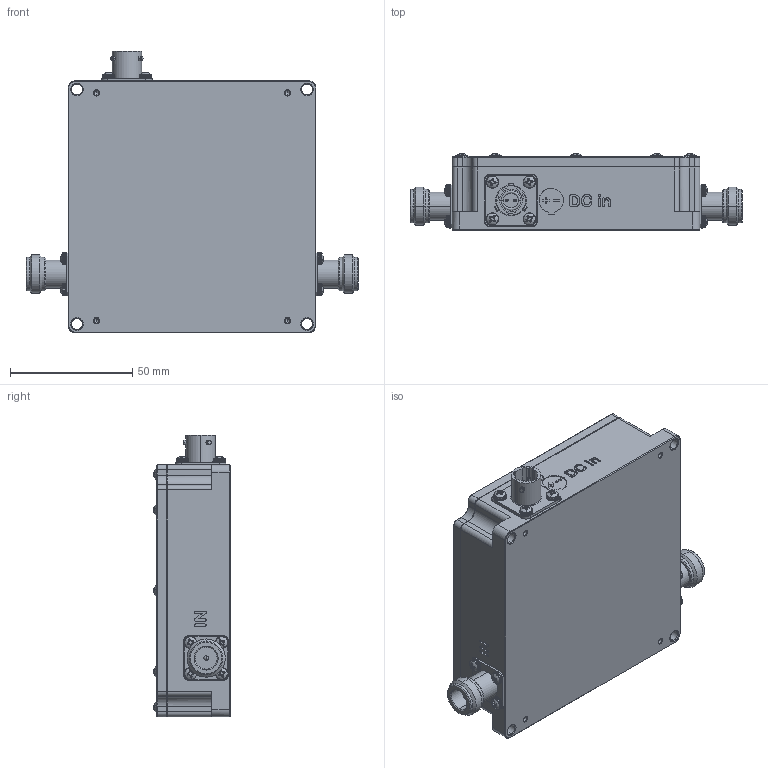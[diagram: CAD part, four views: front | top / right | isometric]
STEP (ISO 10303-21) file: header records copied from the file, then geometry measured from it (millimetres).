
FILE_DESCRIPTION (( 'STEP AP203' ), '1' );
FILE_NAME ('AMBT-05R ASSEMBLY Rev.STEP', '2026-07-27T19:48:42', ( '' ), ( '' ), 'SwSTEP 2.0', 'SolidWorks 2024', '' );
FILE_SCHEMA (( 'CONFIG_CONTROL_DESIGN' ));
Length unit declared in the file: millimetre
Products named in the file (12): SCREW_DIN7985_M2.5_x6mm_long; Label-1x2in; Washer_Flat_M2.5_98689A111_98689A111; 400-0074-00; AMBT-05R ASSEMBLY Rev; 400-0075-00; Amphenol PT02A-8-2P v7; Amphenol-172117; Washer_Split_Lock_M2.5; lightpipe_red; o-ring_cover; Gasket_pt02_shell-8
Assembly tree (70 placements, depth 2):
  AMBT-05R ASSEMBLY Rev
    400-0074-00
    400-0075-00
    Gasket_pt02_shell-8
    Amphenol PT02A-8-2P v7
    Amphenol-172117  x2
    Label-1x2in
    lightpipe_red  x2
    o-ring_cover
    Washer_Flat_M2.5_98689A111_98689A111  x12
    SCREW_DIN7985_M2.5_x6mm_long  x24
    Washer_Split_Lock_M2.5  x24
Bounding box: 135.6 x 31.13 x 115.06 mm (x, y, z)
Volume: 187291.8 mm3; surface area: 79169 mm2
Topology: 75 solids, 75 shells, 2106 faces, 5195 edges, 3290 vertices
Faces by surface type: plane 867, cylinder 473, cone 362, bspline 232, torus 116, sphere 56
Entity records: 43715 total; most frequent: CARTESIAN_POINT 19610, ORIENTED_EDGE 4720, DIRECTION 3872, EDGE_CURVE 2360, AXIS2_PLACEMENT_3D 1547, VERTEX_POINT 1480, EDGE_LOOP 1148, FACE_OUTER_BOUND 990
